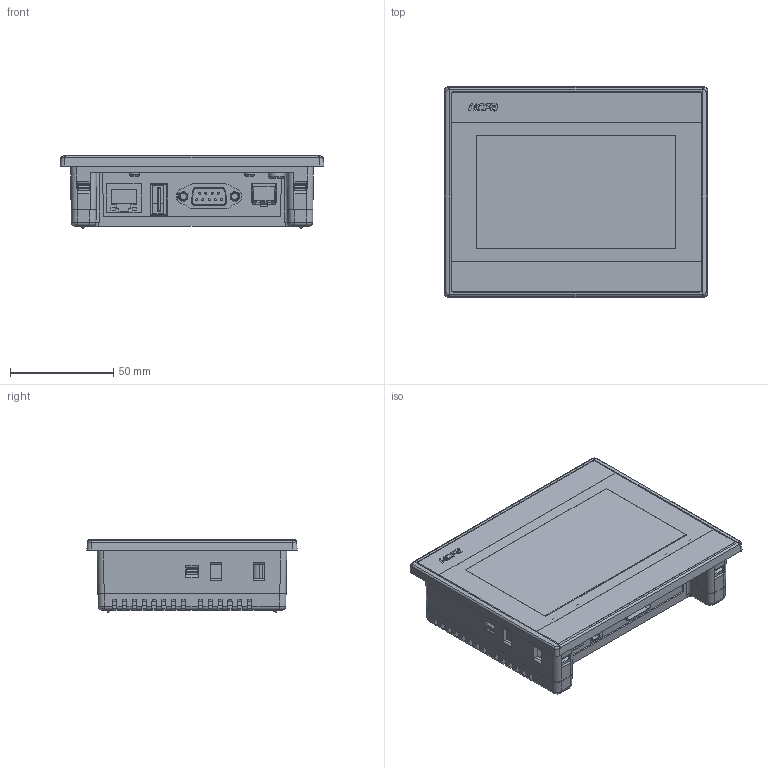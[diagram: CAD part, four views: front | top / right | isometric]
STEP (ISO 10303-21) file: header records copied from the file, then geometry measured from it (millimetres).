
FILE_DESCRIPTION( ('This file contains a STEP AP42 implementation' ,'as created by ZW3D STEP Interface translator.') ,'2;1' );
FILE_NAME( 'HC-4.3C.stp' ,'24 415.111610', (''), ('ZWCAD Software Co.'), 'Version 1.0', 'ZW3D to STEP translator', '' );
FILE_SCHEMA(('AUTOMOTIVE_DESIGN { 1 0 10303 214 1 1 1 1 }'));
Length unit declared in the file: millimetre
Products named in the file (2): 0; HC-4.3C
Bounding box: 128 x 102 x 35.2 mm (x, y, z)
Volume: 324261 mm3; surface area: 131989.4 mm2
Topology: 20 solids, 22 shells, 1659 faces, 5292 edges, 3945 vertices
Faces by surface type: plane 1174, cylinder 394, bspline 52, sphere 21, torus 18
Full cylindrical faces by diameter (mm): 1 x9, 2.6 x2, 3.2 x6, 3.4 x1, 4 x5, 5 x2, 5.4 x4, 7 x1, 8 x1
Entity records: 63205 total; most frequent: CARTESIAN_POINT 15374, ORIENTED_EDGE 9848, DIRECTION 8785, EDGE_CURVE 4924, VECTOR 3881, LINE 3881, VERTEX_POINT 3261, AXIS2_PLACEMENT_3D 2452
